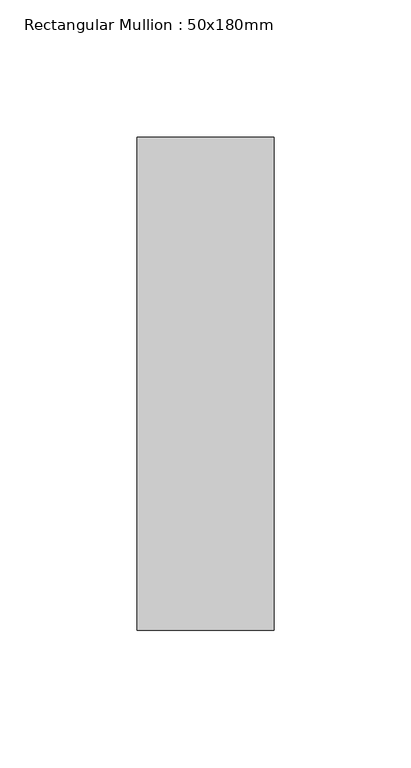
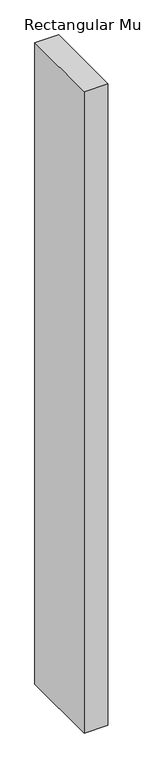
"""IFC4 building model written with IfcOpenShell, lengths in millimetres: member geometry, Rectangular Mullion : 50x180mm."""

from ifc_helpers import new_model, si_unit, frame, origin, place, context, project, spatial, polyline, outline, extrude, source, transform, mapped, element, save


def rectangular_mullion_50x180mm_c0bd3b18(model_context):
    return source(origin(), model_context, "Body", "SweptSolid", [
        extrude(outline(polyline([(0.0, 90.0), (0.0, -90.0), (-50.0, -90.0), (-50.0, 90.0), (0.0, 90.0)])), frame((0.0, 0.0, -1432.8125002), z_axis=(0.0, 0.0, 1.0), x_axis=(1.0, 0.0, 0.0)), (0.0, 0.0, 1.0), 1432.8125002),
    ])


if __name__ == "__main__":
    model = new_model("IFC4")
    model_context = context("Model", 3, world=origin())
    ifc_project = project(units=[si_unit("LENGTHUNIT", "METRE", prefix="MILLI")], contexts=[model_context])
    site = spatial("IfcSite", under=ifc_project)
    building = spatial("IfcBuilding", under=site)
    placement = place(None, origin())
    rectangular_mullion_50x180mm_shape = rectangular_mullion_50x180mm_c0bd3b18(model_context)
    element("IfcMember", 1, ObjectType="Rectangular Mullion : 50x180mm", at=placement, inside=building, context=model_context, shape_type="MappedRepresentation", body=[
        mapped(rectangular_mullion_50x180mm_shape, transform((0.0, 0.0, 0.0), x_axis=(1.0, 0.0, 0.0), y_axis=(0.0, 1.0, 0.0), z_axis=(0.0, 0.0, 1.0))),
    ])
    save(model, "model.ifc")
